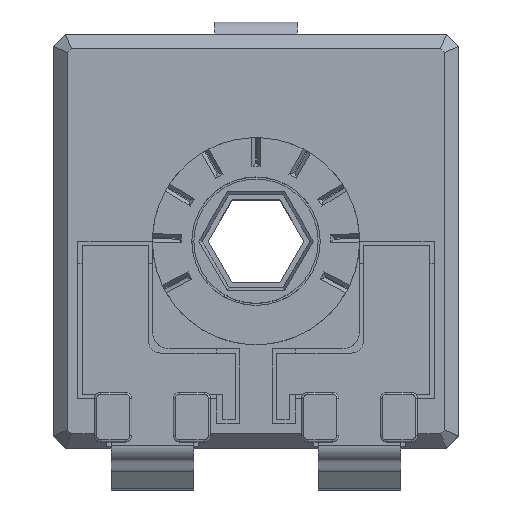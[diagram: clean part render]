
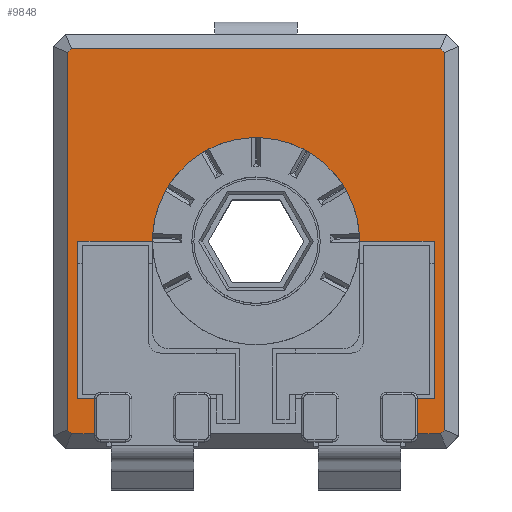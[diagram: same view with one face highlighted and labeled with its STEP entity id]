
A CAD part, top view. The second image highlights one B-rep face of the part: STEP entity #9848.
In plain terms, the highlighted planar face has unit normal (0, 0, 1).
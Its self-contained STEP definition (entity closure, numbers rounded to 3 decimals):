
#300=CIRCLE('',#10513,2.5);
#498=PLANE('',#10512);
#968=FACE_OUTER_BOUND('',#1484,.T.);
#1484=EDGE_LOOP('',(#7402,#7403,#7404,#7405,#7406,#7407,#7408,#7409,#7410,
#7411,#7412,#7413,#7414,#7415,#7416,#7417,#7418,#7419));
#2089=LINE('',#14517,#3248);
#2142=LINE('',#14733,#3301);
#2197=LINE('',#14853,#3356);
#2219=LINE('',#14897,#3378);
#2220=LINE('',#14899,#3379);
#2221=LINE('',#14901,#3380);
#2222=LINE('',#14903,#3381);
#2223=LINE('',#14905,#3382);
#2224=LINE('',#14907,#3383);
#2225=LINE('',#14909,#3384);
#2226=LINE('',#14911,#3385);
#2227=LINE('',#14912,#3386);
#2228=LINE('',#14914,#3387);
#2229=LINE('',#14916,#3388);
#2230=LINE('',#14918,#3389);
#2231=LINE('',#14922,#3390);
#2232=LINE('',#14923,#3391);
#3248=VECTOR('',#11542,10.);
#3301=VECTOR('',#11789,10.);
#3356=VECTOR('',#11904,10.);
#3378=VECTOR('',#11940,10.);
#3379=VECTOR('',#11941,10.);
#3380=VECTOR('',#11942,10.);
#3381=VECTOR('',#11943,10.);
#3382=VECTOR('',#11944,10.);
#3383=VECTOR('',#11945,10.);
#3384=VECTOR('',#11946,10.);
#3385=VECTOR('',#11947,10.);
#3386=VECTOR('',#11948,10.);
#3387=VECTOR('',#11949,10.);
#3388=VECTOR('',#11950,10.);
#3389=VECTOR('',#11951,10.);
#3390=VECTOR('',#11954,10.);
#3391=VECTOR('',#11955,10.);
#4428=VERTEX_POINT('',#14514);
#4429=VERTEX_POINT('',#14516);
#4494=VERTEX_POINT('',#14730);
#4495=VERTEX_POINT('',#14732);
#4530=VERTEX_POINT('',#14852);
#4545=VERTEX_POINT('',#14896);
#4546=VERTEX_POINT('',#14898);
#4547=VERTEX_POINT('',#14900);
#4548=VERTEX_POINT('',#14902);
#4549=VERTEX_POINT('',#14904);
#4550=VERTEX_POINT('',#14906);
#4551=VERTEX_POINT('',#14908);
#4552=VERTEX_POINT('',#14910);
#4553=VERTEX_POINT('',#14913);
#4554=VERTEX_POINT('',#14915);
#4555=VERTEX_POINT('',#14917);
#4556=VERTEX_POINT('',#14919);
#4557=VERTEX_POINT('',#14921);
#5430=EDGE_CURVE('',#4429,#4428,#2089,.T.);
#5538=EDGE_CURVE('',#4495,#4494,#2142,.T.);
#5600=EDGE_CURVE('',#4530,#4429,#2197,.T.);
#5623=EDGE_CURVE('',#4545,#4428,#2219,.T.);
#5624=EDGE_CURVE('',#4546,#4545,#2220,.T.);
#5625=EDGE_CURVE('',#4547,#4546,#2221,.T.);
#5626=EDGE_CURVE('',#4548,#4547,#2222,.T.);
#5627=EDGE_CURVE('',#4549,#4548,#2223,.T.);
#5628=EDGE_CURVE('',#4550,#4549,#2224,.T.);
#5629=EDGE_CURVE('',#4551,#4550,#2225,.T.);
#5630=EDGE_CURVE('',#4552,#4551,#2226,.T.);
#5631=EDGE_CURVE('',#4495,#4552,#2227,.T.);
#5632=EDGE_CURVE('',#4494,#4553,#2228,.T.);
#5633=EDGE_CURVE('',#4553,#4554,#2229,.T.);
#5634=EDGE_CURVE('',#4554,#4555,#2230,.T.);
#5635=EDGE_CURVE('',#4555,#4556,#300,.T.);
#5636=EDGE_CURVE('',#4556,#4557,#2231,.T.);
#5637=EDGE_CURVE('',#4557,#4530,#2232,.T.);
#7402=ORIENTED_EDGE('',*,*,#5430,.T.);
#7403=ORIENTED_EDGE('',*,*,#5623,.F.);
#7404=ORIENTED_EDGE('',*,*,#5624,.F.);
#7405=ORIENTED_EDGE('',*,*,#5625,.F.);
#7406=ORIENTED_EDGE('',*,*,#5626,.F.);
#7407=ORIENTED_EDGE('',*,*,#5627,.F.);
#7408=ORIENTED_EDGE('',*,*,#5628,.F.);
#7409=ORIENTED_EDGE('',*,*,#5629,.F.);
#7410=ORIENTED_EDGE('',*,*,#5630,.F.);
#7411=ORIENTED_EDGE('',*,*,#5631,.F.);
#7412=ORIENTED_EDGE('',*,*,#5538,.T.);
#7413=ORIENTED_EDGE('',*,*,#5632,.T.);
#7414=ORIENTED_EDGE('',*,*,#5633,.T.);
#7415=ORIENTED_EDGE('',*,*,#5634,.T.);
#7416=ORIENTED_EDGE('',*,*,#5635,.T.);
#7417=ORIENTED_EDGE('',*,*,#5636,.T.);
#7418=ORIENTED_EDGE('',*,*,#5637,.T.);
#7419=ORIENTED_EDGE('',*,*,#5600,.T.);
#9848=ADVANCED_FACE('',(#968),#498,.T.);
#10512=AXIS2_PLACEMENT_3D('',#14895,#11938,#11939);
#10513=AXIS2_PLACEMENT_3D('',#14920,#11952,#11953);
#11542=DIRECTION('',(0.,-1.,0.));
#11789=DIRECTION('',(0.,1.,0.));
#11904=DIRECTION('',(-1.,0.,0.));
#11938=DIRECTION('center_axis',(0.,0.,1.));
#11939=DIRECTION('ref_axis',(1.,0.,0.));
#11940=DIRECTION('',(-1.,0.,0.));
#11941=DIRECTION('',(-0.707,-0.707,0.));
#11942=DIRECTION('',(0.,-1.,0.));
#11943=DIRECTION('',(0.707,-0.707,0.));
#11944=DIRECTION('',(1.,0.,0.));
#11945=DIRECTION('',(0.707,0.707,0.));
#11946=DIRECTION('',(0.,1.,0.));
#11947=DIRECTION('',(-0.707,0.707,0.));
#11948=DIRECTION('',(-1.,0.,0.));
#11949=DIRECTION('',(-1.,0.,0.));
#11950=DIRECTION('',(0.,1.,0.));
#11951=DIRECTION('',(1.,0.,0.));
#11952=DIRECTION('center_axis',(0.,0.,-1.));
#11953=DIRECTION('ref_axis',(-1.,0.,0.));
#11954=DIRECTION('',(1.,0.,0.));
#11955=DIRECTION('',(0.,-1.,0.));
#14514=CARTESIAN_POINT('',(-22.548,-17.64,0.));
#14516=CARTESIAN_POINT('',(-22.548,-16.79,0.));
#14517=CARTESIAN_POINT('',(-22.548,-15.415,0.));
#14730=CARTESIAN_POINT('',(-30.348,-16.79,0.));
#14732=CARTESIAN_POINT('',(-30.348,-17.64,0.));
#14733=CARTESIAN_POINT('',(-30.348,-14.815,0.));
#14852=CARTESIAN_POINT('',(-22.148,-16.79,0.));
#14853=CARTESIAN_POINT('',(-24.648,-16.79,0.));
#14895=CARTESIAN_POINT('Origin',(-26.448,-12.99,0.));
#14896=CARTESIAN_POINT('',(-21.993,-17.64,0.));
#14897=CARTESIAN_POINT('',(-28.748,-17.64,0.));
#14898=CARTESIAN_POINT('',(-21.898,-17.545,0.));
#14899=CARTESIAN_POINT('',(-21.995,-17.643,0.));
#14900=CARTESIAN_POINT('',(-21.898,-8.435,0.));
#14901=CARTESIAN_POINT('',(-21.898,-15.34,0.));
#14902=CARTESIAN_POINT('',(-21.993,-8.34,0.));
#14903=CARTESIAN_POINT('',(-21.845,-8.488,0.));
#14904=CARTESIAN_POINT('',(-30.903,-8.34,0.));
#14905=CARTESIAN_POINT('',(-24.148,-8.34,0.));
#14906=CARTESIAN_POINT('',(-30.998,-8.435,0.));
#14907=CARTESIAN_POINT('',(-30.9,-8.338,0.));
#14908=CARTESIAN_POINT('',(-30.998,-17.545,0.));
#14909=CARTESIAN_POINT('',(-30.998,-10.64,0.));
#14910=CARTESIAN_POINT('',(-30.903,-17.64,0.));
#14911=CARTESIAN_POINT('',(-31.05,-17.493,0.));
#14912=CARTESIAN_POINT('',(-28.748,-17.64,0.));
#14913=CARTESIAN_POINT('',(-30.748,-16.79,0.));
#14914=CARTESIAN_POINT('',(-28.598,-16.79,0.));
#14915=CARTESIAN_POINT('',(-30.748,-12.99,0.));
#14916=CARTESIAN_POINT('',(-30.748,-12.99,0.));
#14917=CARTESIAN_POINT('',(-28.948,-12.99,0.));
#14918=CARTESIAN_POINT('',(-27.698,-12.99,0.));
#14919=CARTESIAN_POINT('',(-23.948,-12.99,0.));
#14920=CARTESIAN_POINT('Origin',(-26.448,-12.99,0.));
#14921=CARTESIAN_POINT('',(-22.148,-12.99,0.));
#14922=CARTESIAN_POINT('',(-24.298,-12.99,0.));
#14923=CARTESIAN_POINT('',(-22.148,-14.89,0.));
